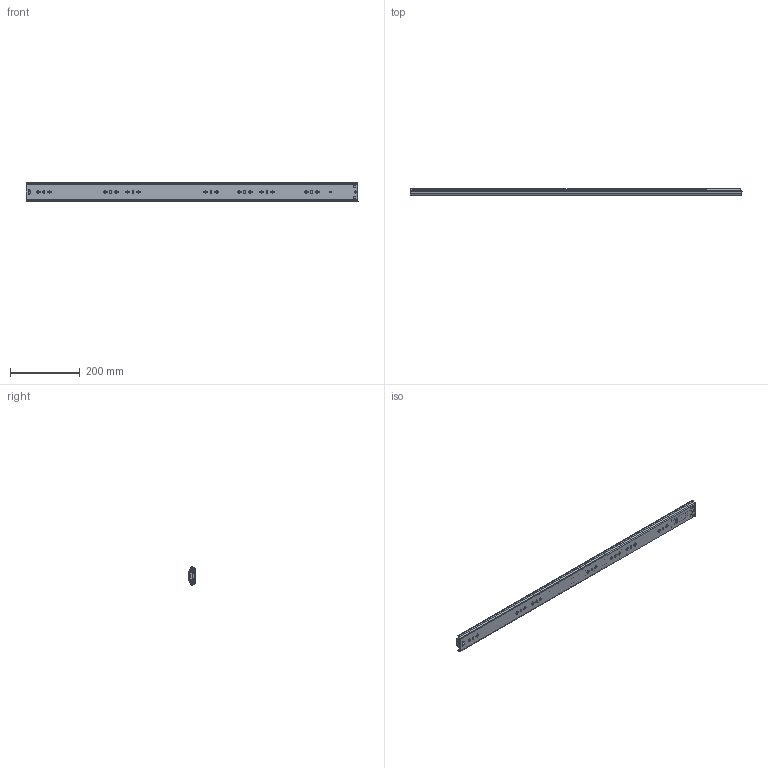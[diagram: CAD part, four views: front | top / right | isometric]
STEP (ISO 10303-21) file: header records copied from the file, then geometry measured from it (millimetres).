
FILE_DESCRIPTION((''),'2;1');
FILE_NAME('1053-HD-950_ASM','2023-11-18T',('jishu015'),(''),'PRO/ENGINEER BY PARAMETRIC TECHNOLOGY CORPORATION, 2010280','PRO/ENGINEER BY PARAMETRIC TECHNOLOGY CORPORATION, 2010280','');
FILE_SCHEMA(('CONFIG_CONTROL_DESIGN'));
Products named in the file (25): 1053-02-18WAIKE11__; MANIFOLD_SOLID_BREP_512__; MANIFOLD_SOLID_BREP_5212__; MANIFOLD_SOLID_BREP_5312__; ADMI29141B9BC7PD_ASM11_ASM; ASM0001_____________ASM; 53_ASM_____________ASM; 1053-02-18XTPJG-DAZHUJIA2____; 1053-02-18XTPJG-5-6GANZHU12____; ZHONGGUIJIAO-11______________; 1053-02-18XTPJG-DAZHUJIA12_____ASM; 1053-02-18WAIKE11___ASM; 1053-02-18ZHONGGUI11_____; 53ZHIDIJIAO12__; 3X6-MAODING____________; 1053-02-18ZHONGGUI11______ASM; 1053XIAOZHUJIA-14GE11______; 53-5-6GANZHU12__; 1053XIAOZHUJIA-14GE11_______ASM; 1053-02-18NEIGUI12___; 53BACHA12__; XIAOMAODING____________; 3X4MAODING____________; 1053-02-18NEIGUI12____ASM; 1053-HD-950_ASM
Assembly tree (151 placements, depth 6):
  1053-HD-950_ASM
    1053-02-18WAIKE11___ASM
      1053-02-18WAIKE11__
      53_ASM_____________ASM
        ASM0001_____________ASM
          ADMI29141B9BC7PD_ASM11_ASM
            MANIFOLD_SOLID_BREP_512__
            MANIFOLD_SOLID_BREP_5212__
            MANIFOLD_SOLID_BREP_5312__
      1053-02-18XTPJG-DAZHUJIA12_____ASM
        1053-02-18XTPJG-DAZHUJIA2____
        1053-02-18XTPJG-5-6GANZHU12____  x64
        ZHONGGUIJIAO-11______________  x2
    1053-02-18ZHONGGUI11______ASM
      1053-02-18ZHONGGUI11_____
      53ZHIDIJIAO12__
      3X6-MAODING____________
    1053XIAOZHUJIA-14GE11_______ASM
      1053XIAOZHUJIA-14GE11______
      53-5-6GANZHU12__  x64
    1053-02-18NEIGUI12____ASM
      1053-02-18NEIGUI12___
      53BACHA12__
      XIAOMAODING____________
      3X4MAODING____________
Bounding box: 952.1 x 19.75 x 53 mm (x, y, z)
Volume: 362791.2 mm3; surface area: 449822.4 mm2
Topology: 143 solids, 143 shells, 4870 faces, 13601 edges, 8480 vertices
Faces by surface type: plane 2125, cylinder 1988, sphere 286, bspline 262, cone 147, torus 60, extrusion 2
Entity records: 169880 total; most frequent: CARTESIAN_POINT 51797, ORIENTED_EDGE 25188, DIRECTION 23947, EDGE_CURVE 12594, AXIS2_PLACEMENT_3D 8177, VERTEX_POINT 8102, VECTOR 7593, LINE 7591
